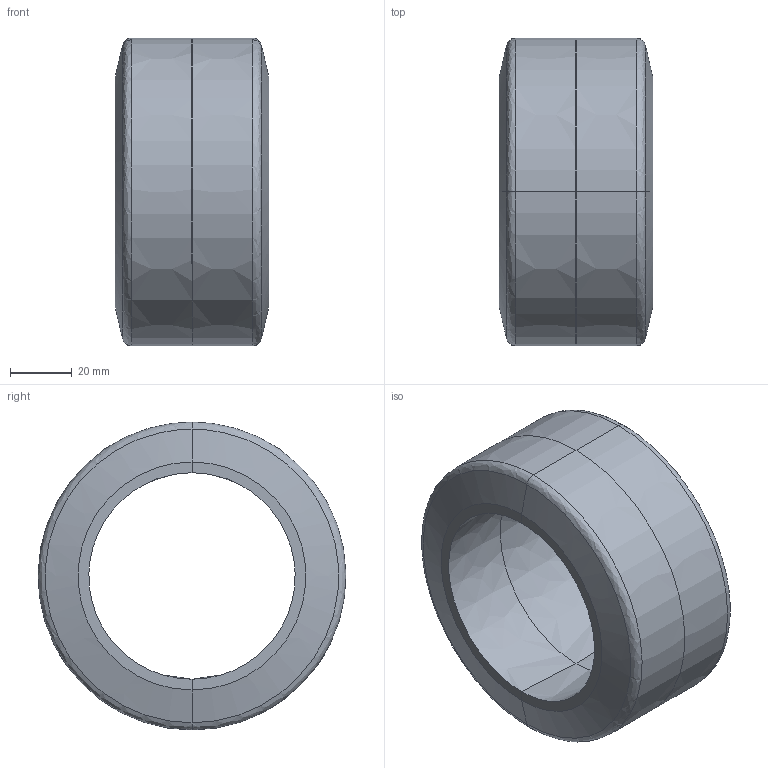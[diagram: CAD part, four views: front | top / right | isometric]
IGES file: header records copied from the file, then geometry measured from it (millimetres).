
Start section: JAMA-IS VERSION  1.0
Global section: file name: E:\tools-models\その他メーカー2\INOAC車輪\7月\HP-100WJ\HP-100WJ-18.igs; native system: CAM-TOOL; preprocessor: C3out Version 11.1.1.50212 (2015/02/12); author: NONE; organization: NONE; date: 200704.165059; units: millimetre
Bounding box: 50 x 100 x 100 mm (x, y, z)
Surface area: 32937.7 mm2 (no closed solid volume)
Topology: 0 solids, 0 shells, 20 faces, 80 edges, 80 vertices
Faces by surface type: bspline 20
